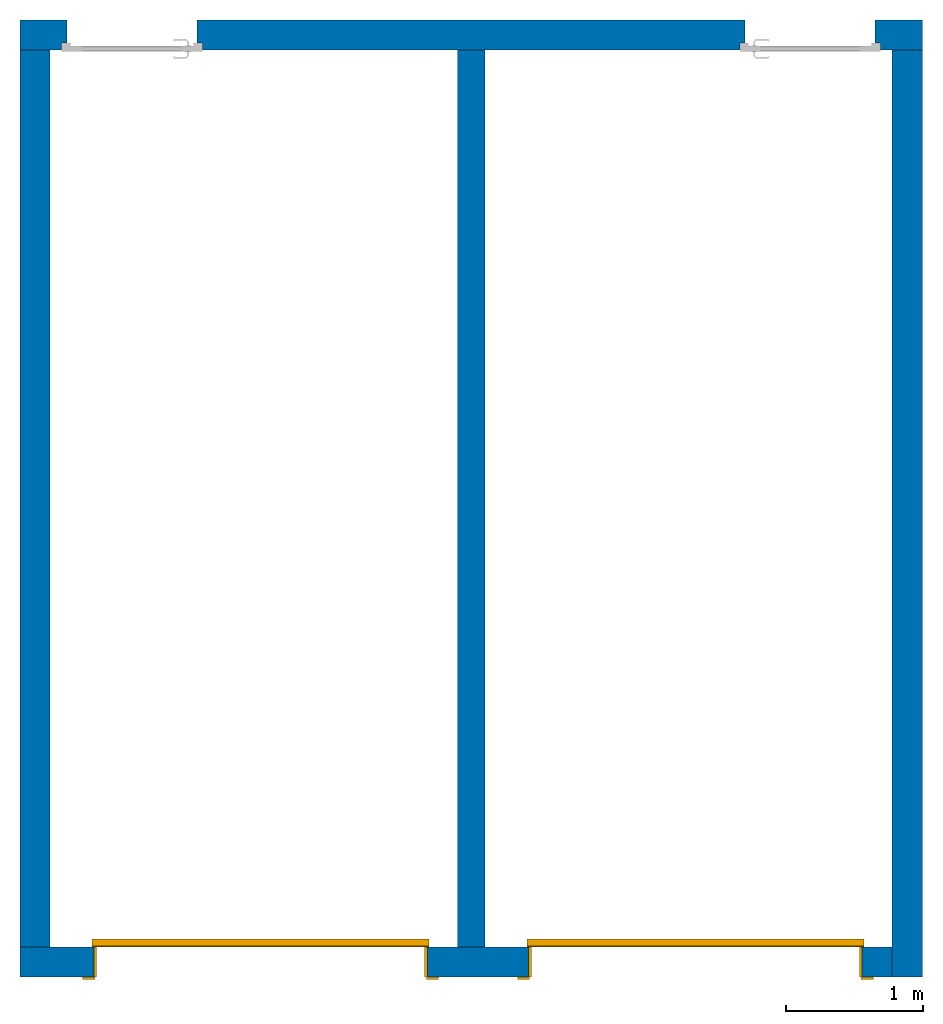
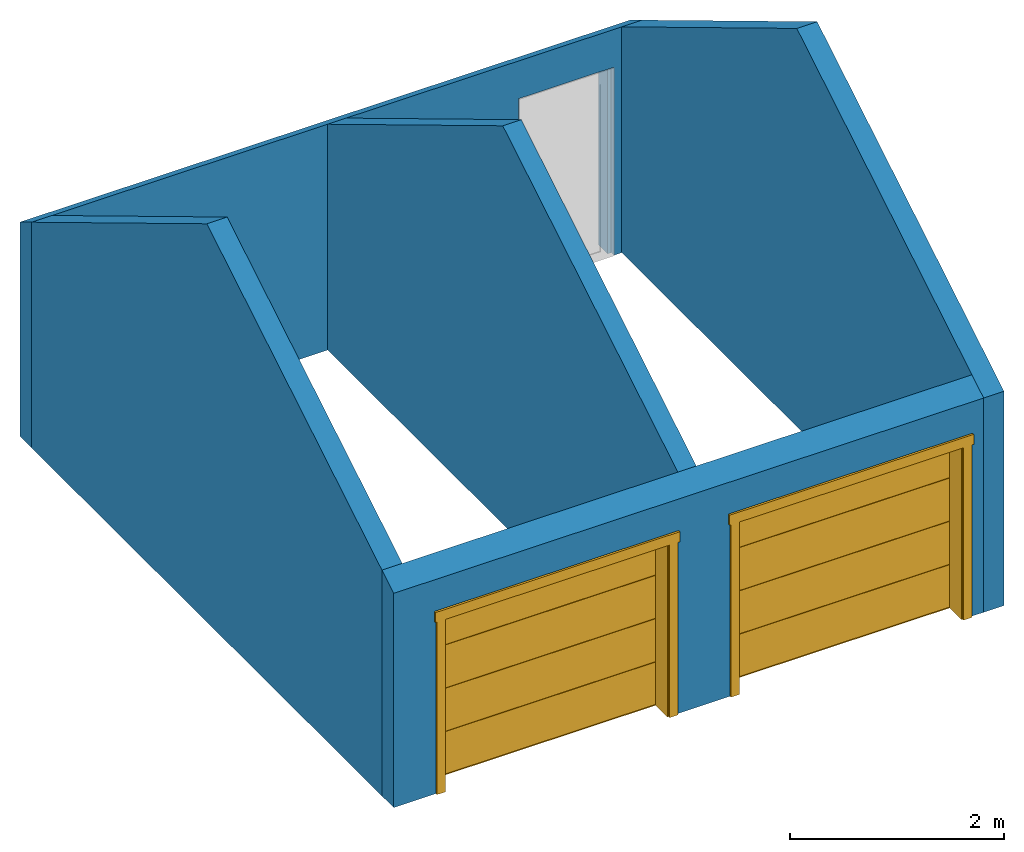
# One storey, part 1 of 3: 5 walls, 2 doors, 4 openings.
"""IFC2X3 building model written with IfcOpenShell, lengths in metres."""

from ifc_helpers import new_model, entity, si_unit, converted_unit, derived_unit, direction, frame, frame_2d, origin, origin_2d_with_axis, place, context, subcontext, project, spatial, polyline, rectangle, outline, extrude, clip, bounded_halfspace, faceted_brep, source, transform, mapped, material, layer, layer_set, layer_usage, type_object, type_shapes, element, fill, save


model = new_model("IFC2X3")

# Units and contexts
model_context = context("Model", 3, precision=1e-05, world=origin(), true_north=direction((6.12303176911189e-17, 1.0)))
body_context = subcontext(model_context, "Body", "Model", "MODEL_VIEW")
ifc_project = project(units=[si_unit("LENGTHUNIT", "METRE"), si_unit("AREAUNIT", "SQUARE_METRE"), si_unit("VOLUMEUNIT", "CUBIC_METRE"), converted_unit("PLANEANGLEUNIT", "DEGREE", entity("IfcRatioMeasure", 0.0174532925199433), si_unit("PLANEANGLEUNIT", "RADIAN"), dimensions=[0, 0, 0, 0, 0, 0, 0]), si_unit("MASSUNIT", "GRAM", prefix="KILO"), si_unit("TIMEUNIT", "SECOND"), si_unit("FREQUENCYUNIT", "HERTZ"), si_unit("THERMODYNAMICTEMPERATUREUNIT", "DEGREE_CELSIUS"), derived_unit("THERMALTRANSMITTANCEUNIT", [(si_unit("MASSUNIT", "GRAM", prefix="KILO"), 1), (si_unit("THERMODYNAMICTEMPERATUREUNIT", "KELVIN"), -1), (si_unit("TIMEUNIT", "SECOND"), -3)]), derived_unit("VOLUMETRICFLOWRATEUNIT", [(si_unit("LENGTHUNIT", "METRE"), 3), (si_unit("TIMEUNIT", "SECOND"), -1)]), si_unit("ELECTRICCURRENTUNIT", "AMPERE"), si_unit("ELECTRICVOLTAGEUNIT", "VOLT"), si_unit("POWERUNIT", "WATT"), si_unit("FORCEUNIT", "NEWTON", prefix="KILO"), si_unit("ILLUMINANCEUNIT", "LUX"), si_unit("LUMINOUSFLUXUNIT", "LUMEN"), si_unit("LUMINOUSINTENSITYUNIT", "CANDELA"), derived_unit("USERDEFINED", [(si_unit("MASSUNIT", "GRAM", prefix="KILO"), -1), (si_unit("LENGTHUNIT", "METRE"), -2), (si_unit("TIMEUNIT", "SECOND"), 3), (si_unit("LUMINOUSFLUXUNIT", "LUMEN"), 1)]), derived_unit("LINEARVELOCITYUNIT", [(si_unit("LENGTHUNIT", "METRE"), 1), (si_unit("TIMEUNIT", "SECOND"), -1)]), si_unit("PRESSUREUNIT", "PASCAL"), derived_unit("USERDEFINED", [(si_unit("LENGTHUNIT", "METRE"), -2), (si_unit("MASSUNIT", "GRAM", prefix="KILO"), 1), (si_unit("TIMEUNIT", "SECOND"), -2)])], contexts=[model_context])

# Site, building, storey
site_placement = place(None, origin())
site = spatial("IfcSite", under=ifc_project, at=site_placement, Name="Surface", CompositionType="ELEMENT")
building_placement = place(site_placement, origin())
building = spatial("IfcBuilding", under=site, at=building_placement, CompositionType="ELEMENT")
storey_placement = place(building_placement, origin())
storey = spatial("IfcBuildingStorey", under=building, at=storey_placement, Name="Rez de chaussée", CompositionType="ELEMENT", Elevation=0.0)

# Wall, openings
ifc_material_1 = material(Name="Maçonnerie - Enduit")
ifc_layer_1 = layer(ifc_material_1, 0.02)
ifc_material_2 = material(Name="Maçonnerie - Béton")
ifc_layer_2 = layer(ifc_material_2, 0.2)
ifc_layer_set_1 = layer_set([ifc_layer_1, ifc_layer_2], Name="Mur de base:Ext.BBM + enduit 22")
ifc_layer_usage_1 = layer_usage(ifc_layer_set_1, "AXIS2", "NEGATIVE", 0.11)
wall_type_1 = type_object("IfcWallType", Name="Mur de base:Ext.BBM + enduit 22", PredefinedType="STANDARD", material=ifc_layer_set_1)
wall_1_placement = place(storey_placement, frame((-3.58506493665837, -14.0835833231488, 0.0)))
wall_1 = element("IfcWallStandardCase", 1, at=wall_1_placement, inside=storey, type_object=wall_type_1, material=ifc_layer_usage_1, Name="Mur de base:Ext.BBM + enduit 22", ObjectType="Mur de base:Ext.BBM + enduit 22", context=body_context, shape_type="Clipping", body=[
    clip(extrude(rectangle(XDim=6.60000000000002, YDim=0.220000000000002, at=frame_2d((3.30000000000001, -2.70616862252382e-16), x_axis=(-1.0, 0.0))), origin(), (0.0, 0.0, 1.0), 2.58218933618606), bounded_halfspace(frame((0.0, -0.109999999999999, 2.58218933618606), z_axis=(0.0, 0.515038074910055, 0.857167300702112), x_axis=(-1.0, 0.0, 0.0)), False, frame((0.0, -0.109999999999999, 2.58218933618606)), polyline([(0.0, 0.0), (0.22, 0.0), (3.2, 0.0), (3.4, 0.0), (6.38000000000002, 0.0), (6.60000000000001, 0.0), (6.60000000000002, 0.219999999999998), (0.0, 0.22), (0.0, 0.0)]))),
])
opening_1_placement = place(wall_1_placement, frame((0.305000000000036, -0.410000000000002, 0.0)))
element("IfcOpeningElement", 2, at=opening_1_placement, cuts=wall_1, Name="Mur de base:Ext.BBM + enduit 22", ObjectType="Opening", context=body_context, shape_type="Brep", body=[
    faceted_brep([(0.98999999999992, 0.820000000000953, 2.11000000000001), (0.0400000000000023, 0.820000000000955, 2.11000000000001), (0.0400000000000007, 0.350000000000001, 2.11000000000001), (0.989999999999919, 0.349999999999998, 2.11000000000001), (0.0400000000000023, 0.820000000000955, 0.0), (0.98999999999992, 0.820000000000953, 0.0), (0.989999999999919, 0.349999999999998, 0.0), (1.02999999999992, 0.349999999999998, 0.0), (1.02999999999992, 0.299999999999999, 0.0), (0.989999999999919, 0.299999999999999, 0.0), (0.989999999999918, 0.0, 0.0), (0.0399999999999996, 0.0, 0.0), (0.0400000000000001, 0.300000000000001, 0.0), (0.0, 0.300000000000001, 0.0), (0.0, 0.350000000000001, 0.0), (0.0400000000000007, 0.350000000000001, 0.0), (0.989999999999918, 0.0, 2.11000000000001), (0.0399999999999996, 0.0, 2.11000000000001), (1.02999999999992, 0.299999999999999, 2.15000000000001), (0.0, 0.300000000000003, 2.15000000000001), (0.0400000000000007, 0.300000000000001, 2.11000000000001), (0.989999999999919, 0.299999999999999, 2.11000000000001), (1.02999999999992, 0.349999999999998, 2.15000000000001), (0.0, 0.350000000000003, 2.15000000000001)], [[[0, 1, 2, 3]], [[4, 5, 6, 7, 8, 9, 10, 11, 12, 13, 14, 15]], [[1, 0, 5, 4]], [[5, 0, 3, 6]], [[16, 17, 11, 10]], [[1, 4, 15, 2]], [[9, 8, 18, 19, 13, 12, 20, 21]], [[8, 7, 22, 18]], [[7, 6, 3, 2, 15, 14, 23, 22]], [[19, 18, 22, 23]], [[13, 19, 23, 14]], [[11, 17, 20, 12]], [[16, 10, 9, 21]], [[17, 16, 21, 20]]]),
])
opening_2_placement = place(wall_1_placement, frame((5.26500000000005, -0.41000000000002, 0.0)))
element("IfcOpeningElement", 3, at=opening_2_placement, cuts=wall_1, Name="Mur de base:Ext.BBM + enduit 22", ObjectType="Opening", context=body_context, shape_type="Brep", body=[
    faceted_brep([(0.989999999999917, 0.0, 2.11000000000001), (0.989999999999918, 0.299999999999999, 2.11000000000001), (0.0399999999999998, 0.300000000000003, 2.11000000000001), (0.039999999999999, 0.0, 2.11000000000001), (0.98999999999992, 0.820000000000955, 0.0), (0.989999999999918, 0.350000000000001, 0.0), (1.02999999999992, 0.349999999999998, 0.0), (1.02999999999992, 0.299999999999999, 0.0), (0.989999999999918, 0.299999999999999, 0.0), (0.989999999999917, 0.0, 0.0), (0.039999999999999, 0.0, 0.0), (0.0399999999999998, 0.300000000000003, 0.0), (0.0, 0.300000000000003, 0.0), (0.0, 0.350000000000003, 0.0), (0.0399999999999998, 0.350000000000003, 0.0), (0.0400000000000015, 0.820000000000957, 0.0), (0.98999999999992, 0.820000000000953, 2.11000000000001), (0.0400000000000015, 0.820000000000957, 2.11000000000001), (0.989999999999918, 0.350000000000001, 2.11000000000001), (1.02999999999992, 0.299999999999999, 2.15000000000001), (0.0, 0.300000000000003, 2.15000000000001), (0.0, 0.350000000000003, 2.15000000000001), (1.02999999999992, 0.349999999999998, 2.15000000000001), (0.0399999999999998, 0.350000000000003, 2.11000000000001)], [[[0, 1, 2, 3]], [[4, 5, 6, 7, 8, 9, 10, 11, 12, 13, 14, 15]], [[16, 4, 15, 17]], [[3, 2, 11, 10]], [[3, 10, 9, 0]], [[16, 18, 5, 4]], [[11, 2, 1, 8, 7, 19, 20, 12]], [[12, 20, 21, 13]], [[13, 21, 22, 6, 5, 18, 23, 14]], [[19, 22, 21, 20]], [[7, 6, 22, 19]], [[9, 8, 1, 0]], [[15, 14, 23, 17]], [[17, 23, 18, 16]]]),
])

# Wall
ifc_layer_usage_2 = layer_usage(ifc_layer_set_1, "AXIS2", "NEGATIVE", 0.11)
wall_2_placement = place(storey_placement, frame((2.90493506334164, -14.1935833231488, 0.0), z_axis=(0.0, 0.0, 1.0), x_axis=(0.0, -1.0, 0.0)))
element("IfcWallStandardCase", 4, at=wall_2_placement, inside=storey, type_object=wall_type_1, material=ifc_layer_usage_2, Name="Mur de base:Ext.BBM + enduit 22", ObjectType="Mur de base:Ext.BBM + enduit 22", context=body_context, shape_type="Clipping", body=[
    clip(clip(extrude(rectangle(XDim=6.78000000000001, YDim=0.22, at=frame_2d((3.39, 1.38777878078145e-17), x_axis=(-1.0, 0.0))), origin(), (0.0, 0.0, 1.0), 4.55301216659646), bounded_halfspace(frame((0.0, -0.11, 2.58218933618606), z_axis=(-0.515038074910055, 0.0, 0.857167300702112), x_axis=(0.0, -1.0, 0.0)), False, frame((0.0, -0.11, 2.58218933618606)), polyline([(0.0, 0.0), (3.27999999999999, 0.0), (3.27999999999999, 0.22), (0.0, 0.22), (0.0, 0.0)]))), bounded_halfspace(frame((3.27999999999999, -0.11, 4.55301216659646), z_axis=(0.515038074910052, 0.0, 0.857167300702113), x_axis=(0.0, 1.0, 0.0)), False, frame((3.27999999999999, -0.11, 4.55301216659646)), polyline([(0.0, 0.0), (3.28000000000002, 0.0), (3.50000000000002, 0.0), (3.50000000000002, 0.22), (0.0, 0.22), (0.0, 0.0)]))),
])

# Wall, openings, doors
ifc_layer_usage_3 = layer_usage(ifc_layer_set_1, "AXIS2", "NEGATIVE", 0.11)
wall_3_placement = place(storey_placement, frame((2.79493506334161, -20.8635833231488, 0.0), z_axis=(0.0, 0.0, 1.0), x_axis=(-1.0, 0.0, 0.0)))
wall_3 = element("IfcWallStandardCase", 5, at=wall_3_placement, inside=storey, type_object=wall_type_1, material=ifc_layer_usage_3, Name="Mur de base:Ext.BBM + enduit 22", ObjectType="Mur de base:Ext.BBM + enduit 22", context=body_context, shape_type="Clipping", body=[
    clip(extrude(rectangle(XDim=6.38, YDim=0.220000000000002, at=frame_2d((3.19, -1.62370117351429e-15), x_axis=(-1.0, 0.0))), origin(), (0.0, 0.0, 1.0), 2.58218933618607), bounded_halfspace(frame((0.0, -0.110000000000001, 2.58218933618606), z_axis=(0.0, 0.515038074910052, 0.857167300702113), x_axis=(-1.0, 0.0, 0.0)), False, frame((0.0, -0.110000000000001, 2.58218933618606)), polyline([(0.0, 0.0), (2.98, 0.0), (3.18, 0.0), (6.16, 0.0), (6.38, 0.0), (6.38, 0.219999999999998), (0.0, 0.220000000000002), (0.0, 0.0)]))),
])
opening_3_placement = place(wall_3_placement, frame((5.8392, 0.109999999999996, 0.0)))
opening_3 = element("IfcOpeningElement", 6, at=opening_3_placement, cuts=wall_3, Name="Overhead-Sectional-Flush:96\" x 78\":1", ObjectType="Opening", context=body_context, shape_type="SweptSolid", body=[
    extrude(rectangle(XDim=1.9812, YDim=2.4384, at=frame_2d((0.990599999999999, 1.2192), x_axis=(1.0, 0.0))), frame((0.0, 0.0, 0.0), z_axis=(0.0, -1.0, 0.0), x_axis=(0.0, 0.0, 1.0)), (0.0, 0.0, 1.0), 0.22),
])
opening_4_placement = place(wall_3_placement, frame((2.6592, 0.109999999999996, 0.0)))
opening_4 = element("IfcOpeningElement", 7, at=opening_4_placement, cuts=wall_3, Name="Overhead-Sectional-Flush:96\" x 78\":1", ObjectType="Opening", context=body_context, shape_type="SweptSolid", body=[
    extrude(rectangle(XDim=1.9812, YDim=2.4384, at=frame_2d((0.990599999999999, 1.2192), x_axis=(1.0, 0.0))), frame((0.0, 0.0, 0.0), z_axis=(0.0, -1.0, 0.0), x_axis=(0.0, 0.0, 1.0)), (0.0, 0.0, 1.0), 0.22),
])
ifc_material_3 = material(Name="Rubber - Black")
door_style = type_object("IfcDoorStyle", Name="96\" x 78\"", ConstructionType="NOTDEFINED", OperationType="NOTDEFINED", ParameterTakesPrecedence=False, Sizeable=False, material=ifc_material_3)
shared_shape = source(origin(), body_context, "Body", "SweptSolid", [
    extrude(outline(polyline([(-0.0371230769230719, -0.984127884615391), (0.0136769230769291, -0.984127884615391), (0.0136769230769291, -0.499940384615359), (-0.011723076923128, -0.495177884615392), (0.0136769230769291, -0.495177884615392), (0.0136769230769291, -0.00464038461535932), (-0.0117230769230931, 0.000122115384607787), (0.0136769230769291, 0.000122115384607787), (0.0136769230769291, 0.49065961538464), (-0.0117230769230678, 0.495422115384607), (0.0136769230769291, 0.495422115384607), (0.0136769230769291, 0.990722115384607), (-0.0371230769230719, 0.990722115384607), (-0.0371230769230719, -0.984127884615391)])), frame((-0.0126999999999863, -0.0200269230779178, 0.990477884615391), z_axis=(1.0, 0.0, 0.0), x_axis=(0.0, 1.0, 0.0)), (0.0, 0.0, 1.0), 2.46379999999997),
    extrude(rectangle(XDim=0.01905, YDim=0.0889000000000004, at=origin_2d_with_axis()), frame((-0.0381, 0.229525, 0.0), z_axis=(0.0, 0.0, 1.0), x_axis=(0.0, -1.0, 0.0)), (0.0, 0.0, 1.0), 1.97485),
    extrude(rectangle(XDim=0.01905, YDim=0.0889000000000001, at=frame_2d((0.0, 1.35308431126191e-16), x_axis=(1.0, 0.0))), frame((2.4765, 0.229525, 0.0), z_axis=(0.0, 0.0, 1.0), x_axis=(0.0, -1.0, 0.0)), (0.0, 0.0, 1.0), 1.97485),
    extrude(outline(polyline([(-0.985837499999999, -1.20015), (-0.985837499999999, -1.2192), (0.995362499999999, -1.2192), (0.995362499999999, 1.2192), (-0.985837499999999, 1.2192), (-0.985837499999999, 1.20015), (0.976312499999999, 1.20015), (0.976312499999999, -1.20015), (-0.985837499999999, -1.20015)])), frame((1.2192, 0.0, 0.985837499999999), z_axis=(0.0, -1.0, 0.0), x_axis=(0.0, 0.0, 1.0)), (0.0, 0.0, -1.0), 0.22),
    extrude(outline(polyline([(-0.00317500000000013, -0.0269875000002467), (0.00317500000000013, -0.0269875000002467), (0.00317500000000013, 0.0301625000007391), (-0.00317500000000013, 0.0238124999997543), (-0.00317500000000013, -0.0269875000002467)])), frame((-0.0126999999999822, -0.030162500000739, 0.00317500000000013), z_axis=(1.0, 0.0, 0.0), x_axis=(0.0, 0.0, -1.0)), (0.0, 0.0, 1.0), 2.46379999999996),
    extrude(rectangle(XDim=0.0222249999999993, YDim=2.64159999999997, at=origin_2d_with_axis()), frame((1.2192, 0.2311125, 1.97485), z_axis=(0.0, 0.0, 1.0), x_axis=(0.0, -1.0, 0.0)), (0.0, 0.0, 1.0), 0.1143),
])
type_shapes(door_style, [shared_shape])
door_1_placement = place(opening_3_placement, frame((-2.4384, -0.22000000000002, 0.0)))
door_1 = element("IfcDoor", 8, at=door_1_placement, inside=storey, type_object=door_style, material=ifc_material_3, Name="Overhead-Sectional-Flush:96\" x 78\"", ObjectType="96\" x 78\"", OverallHeight=1.9812, OverallWidth=2.4384, context=body_context, shape_type="MappedRepresentation", body=[
    mapped(shared_shape, transform((0.0, 0.0, 0.0), scale=1.0)),
])
fill(opening_3, door_1)
door_2_placement = place(opening_4_placement, frame((-2.4384, -0.220000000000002, 0.0)))
door_2 = element("IfcDoor", 9, at=door_2_placement, inside=storey, type_object=door_style, material=ifc_material_3, Name="Overhead-Sectional-Flush:96\" x 78\"", ObjectType="96\" x 78\"", OverallHeight=1.9812, OverallWidth=2.4384, context=body_context, shape_type="MappedRepresentation", body=[
    mapped(shared_shape, transform((0.0, 0.0, 0.0), scale=1.0)),
])
fill(opening_4, door_2)

# Walls
ifc_layer_usage_4 = layer_usage(ifc_layer_set_1, "AXIS2", "NEGATIVE", 0.11)
wall_4_placement = place(storey_placement, frame((-3.47506493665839, -20.7535833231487, 0.0), z_axis=(0.0, 0.0, 1.0), x_axis=(0.0, 1.0, 0.0)))
element("IfcWallStandardCase", 10, at=wall_4_placement, inside=storey, type_object=wall_type_1, material=ifc_layer_usage_4, Name="Mur de base:Ext.BBM + enduit 22", ObjectType="Mur de base:Ext.BBM + enduit 22", context=body_context, shape_type="Clipping", body=[
    clip(clip(extrude(rectangle(XDim=6.55999999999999, YDim=0.22, at=frame_2d((3.28, 0.0), x_axis=(-1.0, 0.0))), origin(), (0.0, 0.0, 1.0), 4.55301216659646), bounded_halfspace(frame((3.28000000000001, -0.11, 4.55301216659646), z_axis=(0.515038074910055, 0.0, 0.857167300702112), x_axis=(0.0, 1.0, 0.0)), False, frame((3.28000000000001, -0.11, 4.55301216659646)), polyline([(0.0, 0.0), (3.27999999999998, 0.0), (3.27999999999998, 0.22), (0.0, 0.22), (0.0, 0.0)]))), bounded_halfspace(frame((0.0, -0.11, 2.58218933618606), z_axis=(-0.515038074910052, 0.0, 0.857167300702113), x_axis=(0.0, -1.0, 0.0)), False, frame((0.0, -0.11, 2.58218933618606)), polyline([(0.0, 0.0), (3.28000000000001, 0.0), (3.28000000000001, 0.22), (0.0, 0.22), (0.0, 0.0)]))),
])
ifc_material_4 = material(Name="Mur par défaut")
ifc_layer_3 = layer(ifc_material_4, 0.2)
ifc_layer_set_2 = layer_set([ifc_layer_3], Name="Mur de base:Ext.BBM 20 cm")
ifc_layer_usage_5 = layer_usage(ifc_layer_set_2, "AXIS2", "NEGATIVE", 0.1)
wall_type_2 = type_object("IfcWallType", Name="Mur de base:Ext.BBM 20 cm", PredefinedType="STANDARD", material=ifc_layer_set_2)
wall_5_placement = place(storey_placement, frame((-0.285064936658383, -20.7535833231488, 0.0), z_axis=(0.0, 0.0, 1.0), x_axis=(0.0, 1.0, 0.0)))
element("IfcWallStandardCase", 11, at=wall_5_placement, inside=storey, type_object=wall_type_2, material=ifc_layer_usage_5, Name="Mur de base:Ext.BBM 20 cm", ObjectType="Mur de base:Ext.BBM 20 cm", context=body_context, shape_type="Clipping", body=[
    clip(clip(extrude(rectangle(XDim=6.55999999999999, YDim=0.2, at=frame_2d((3.28, 0.0), x_axis=(-1.0, 0.0))), origin(), (0.0, 0.0, 1.0), 4.55301216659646), bounded_halfspace(frame((3.28000000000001, -0.1, 4.55301216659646), z_axis=(0.515038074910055, 0.0, 0.857167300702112), x_axis=(0.0, 1.0, 0.0)), False, frame((3.28000000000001, -0.1, 4.55301216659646)), polyline([(0.0, 0.0), (3.27999999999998, 0.0), (3.27999999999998, 0.2), (0.0, 0.2), (0.0, 0.0)]))), bounded_halfspace(frame((0.0, -0.1, 2.58218933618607), z_axis=(-0.515038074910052, 0.0, 0.857167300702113), x_axis=(0.0, -1.0, 0.0)), False, frame((0.0, -0.1, 2.58218933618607)), polyline([(0.0, 0.0), (3.28000000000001, 0.0), (3.28000000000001, 0.200000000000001), (0.0, 0.2), (0.0, 0.0)]))),
])

save(model, "model.ifc")
